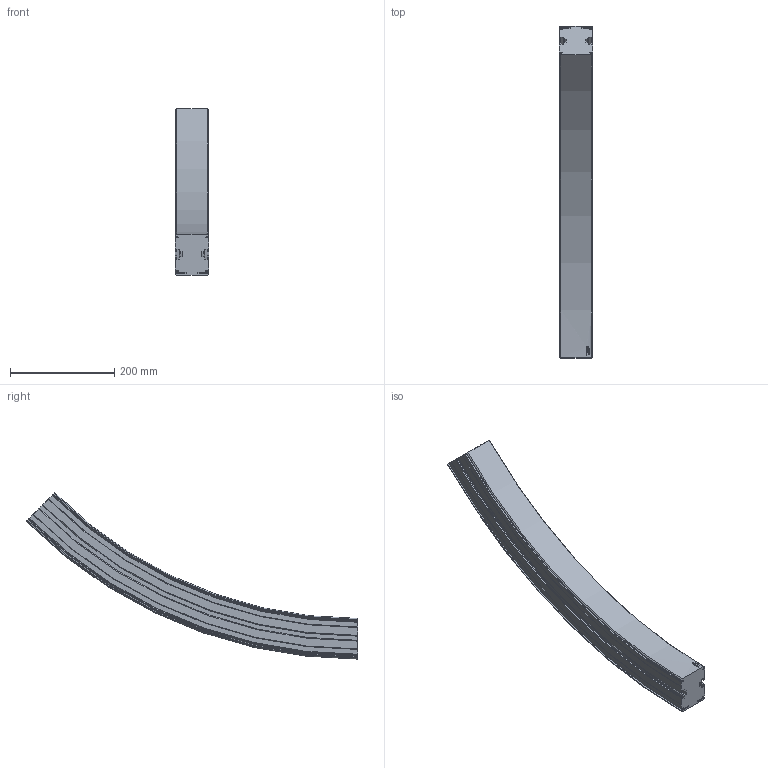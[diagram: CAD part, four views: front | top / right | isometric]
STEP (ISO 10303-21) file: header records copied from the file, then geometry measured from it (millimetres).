
FILE_DESCRIPTION(/* description */ ('VERTIKALKURVA S620 R860'),/* implementation_level */ '2;1');
FILE_NAME(/* name */ '\\carryline.intra\privat\users\mathias\Desktop\Tillfälliga filer\620-5695+620-2000-UPP-01.stp',/* time_stamp */ '2018-12-06T07:32:27+01:00',/* author */ ('MD'),/* organization */ ('CARRYLINE'),/* preprocessor_version */ 'ST-DEVELOPER v17',/* originating_system */ 'Autodesk Inventor 2018',/* authorisation */ '');
FILE_SCHEMA (('AUTOMOTIVE_DESIGN { 1 0 10303 214 3 1 1 }'));
Length unit declared in the file: millimetre
Products named in the file (1): 620-5695+620-2000-UPP-01
Bounding box: 64 x 636.4 x 318.76 mm (x, y, z)
Volume: 3017032.7 mm3; surface area: 335700.3 mm2
Topology: 1 solids, 1 shells, 149 faces, 426 edges, 284 vertices
Faces by surface type: plane 54, cylinder 37, torus 28, cone 16, bspline 14
Entity records: 9548 total; most frequent: CARTESIAN_POINT 5528, ORIENTED_EDGE 852, DIRECTION 836, EDGE_CURVE 426, AXIS2_PLACEMENT_3D 315, VERTEX_POINT 284, LINE 206, VECTOR 206
